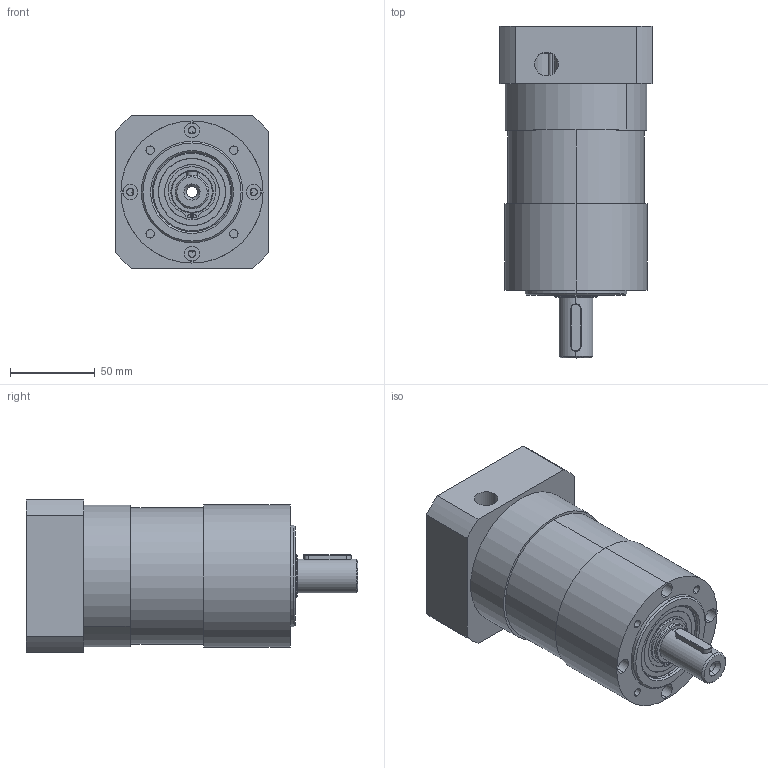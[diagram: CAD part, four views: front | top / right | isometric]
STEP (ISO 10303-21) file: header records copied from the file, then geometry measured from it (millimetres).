
FILE_DESCRIPTION (( 'STEP AP214' ), '1' );
FILE_NAME ('×°ÅäÌå2.STEP', '2017-04-24T14:39:45', ( '' ), ( '' ), 'SwSTEP 2.0', 'SolidWorks 2016', '' );
FILE_SCHEMA (( 'AUTOMOTIVE_DESIGN' ));
Length unit declared in the file: millimetre
Products named in the file (1): 蚾饜极2
Bounding box: 90 x 196.3 x 90 mm (x, y, z)
Surface area: 84017.3 mm2 (no closed solid volume)
Topology: 0 solids, 13 shells, 144 faces, 427 edges, 297 vertices
Faces by surface type: cylinder 79, plane 40, cone 21, torus 4
Entity records: 6750 total; most frequent: CARTESIAN_POINT 1181, DIRECTION 906, ORIENTED_EDGE 699, EDGE_CURVE 427, AXIS2_PLACEMENT_3D 364, VERTEX_POINT 297, CIRCLE 219, EDGE_LOOP 180
